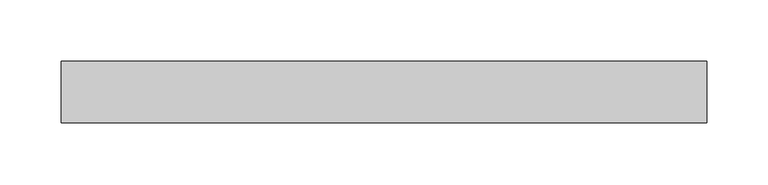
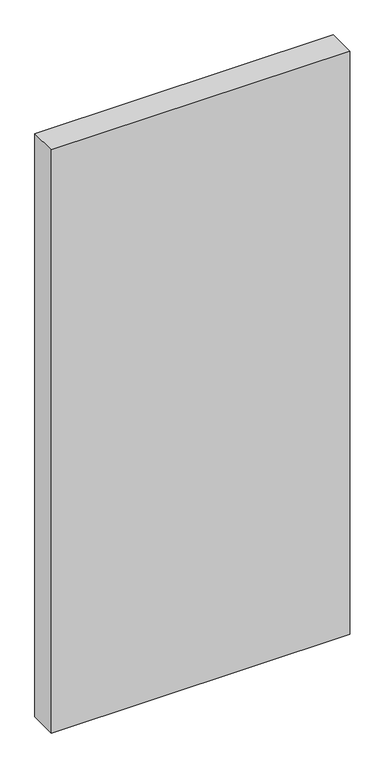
"""IFC4 building model written with IfcOpenShell, lengths in millimetres: plate geometry, Системная панель : Стекло(50мм)."""

from ifc_helpers import new_model, si_unit, origin, origin_with_axes, place, context, project, spatial, polyline, outline, extrude, source, transform, mapped, element, save


def plate_796883d3(model_context):
    return source(origin(), model_context, "Body", "SweptSolid", [
        extrude(outline(polyline([(262.5, -25.0), (-262.5, -25.0), (-262.5, 25.0), (262.5, 25.0), (262.5, -25.0)])), origin_with_axes(), (0.0, 0.0, 1.0), 1085.0),
    ])


if __name__ == "__main__":
    model = new_model("IFC4")
    model_context = context("Model", 3, world=origin())
    ifc_project = project(units=[si_unit("LENGTHUNIT", "METRE", prefix="MILLI")], contexts=[model_context])
    site = spatial("IfcSite", under=ifc_project)
    building = spatial("IfcBuilding", under=site)
    placement = place(None, origin())
    plate_shape = plate_796883d3(model_context)
    element("IfcPlate", 1, ObjectType="Системная панель : Стекло(50мм)", at=placement, inside=building, context=model_context, shape_type="MappedRepresentation", body=[
        mapped(plate_shape, transform((0.0, 0.0, 0.0), x_axis=(1.0, 0.0, 0.0), y_axis=(0.0, 1.0, 0.0), z_axis=(0.0, 0.0, 1.0))),
    ])
    save(model, "model.ifc")
